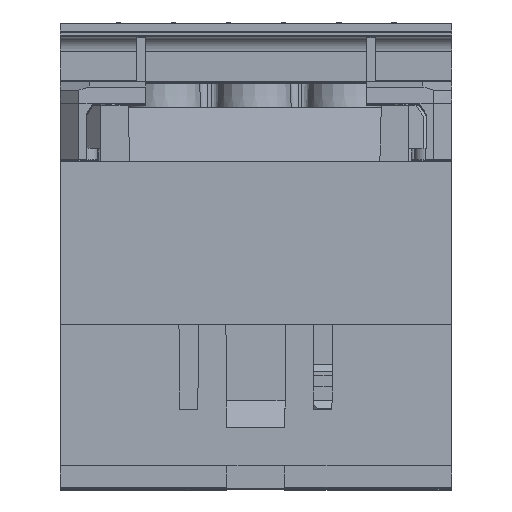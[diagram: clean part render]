
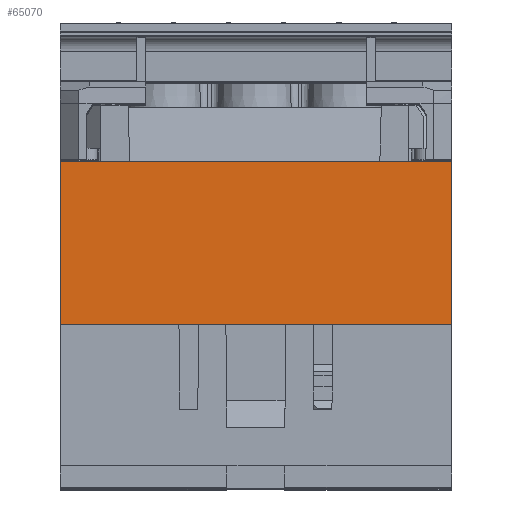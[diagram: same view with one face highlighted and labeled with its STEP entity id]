
A CAD part, top view. The second image highlights one B-rep face of the part: STEP entity #65070.
In plain terms, the highlighted planar face has unit normal (0, 0, 1).
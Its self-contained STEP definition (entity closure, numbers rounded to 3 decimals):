
#4564 = CARTESIAN_POINT ( 'NONE',  ( -27., 18.5, 200.2 ) ) ;
#10208 = CARTESIAN_POINT ( 'NONE',  ( -27., 18.5, 200.2 ) ) ;
#12420 = LINE ( 'NONE', #4564, #65587 ) ;
#13497 = VERTEX_POINT ( 'NONE', #146883 ) ;
#14191 = EDGE_LOOP ( 'NONE', ( #133286, #146209, #63071, #123237 ) ) ;
#15216 = DIRECTION ( 'NONE',  ( 0., 1., 0. ) ) ;
#17755 = CARTESIAN_POINT ( 'NONE',  ( 27., 18.5, 200.2 ) ) ;
#18419 = DIRECTION ( 'NONE',  ( -1., 0., 0. ) ) ;
#23551 = VERTEX_POINT ( 'NONE', #10208 ) ;
#23802 = VERTEX_POINT ( 'NONE', #156436 ) ;
#26886 = CARTESIAN_POINT ( 'NONE',  ( 27., 18.5, 200.2 ) ) ;
#29909 = VERTEX_POINT ( 'NONE', #126954 ) ;
#30195 = EDGE_CURVE ( 'NONE', #13497, #29909, #82126, .T. ) ;
#30902 = CARTESIAN_POINT ( 'NONE',  ( 195.707, 18.5, 200.2 ) ) ;
#36040 = CARTESIAN_POINT ( 'NONE',  ( 195.707, -4., 200.2 ) ) ;
#40282 = LINE ( 'NONE', #26886, #68618 ) ;
#43794 = LINE ( 'NONE', #17755, #144625 ) ;
#63071 = ORIENTED_EDGE ( 'NONE', *, *, #99018, .F. ) ;
#65070 = ADVANCED_FACE ( 'NONE', ( #68739 ), #105772, .T. ) ;
#65587 = VECTOR ( 'NONE', #15216, 1000. ) ;
#68618 = VECTOR ( 'NONE', #18419, 1000. ) ;
#68739 = FACE_OUTER_BOUND ( 'NONE', #14191, .T. ) ;
#74486 = VECTOR ( 'NONE', #108826, 1000. ) ;
#82126 = LINE ( 'NONE', #36040, #74486 ) ;
#99018 = EDGE_CURVE ( 'NONE', #29909, #23551, #12420, .T. ) ;
#103096 = AXIS2_PLACEMENT_3D ( 'NONE', #30902, #140365, #115885 ) ;
#105772 = PLANE ( 'NONE',  #103096 ) ;
#108826 = DIRECTION ( 'NONE',  ( -1., 0., 0. ) ) ;
#109595 = EDGE_CURVE ( 'NONE', #23802, #13497, #43794, .T. ) ;
#115885 = DIRECTION ( 'NONE',  ( 1., 0., 0. ) ) ;
#123237 = ORIENTED_EDGE ( 'NONE', *, *, #30195, .F. ) ;
#126954 = CARTESIAN_POINT ( 'NONE',  ( -27., -4., 200.2 ) ) ;
#131604 = EDGE_CURVE ( 'NONE', #23802, #23551, #40282, .T. ) ;
#133286 = ORIENTED_EDGE ( 'NONE', *, *, #109595, .F. ) ;
#140365 = DIRECTION ( 'NONE',  ( 0., 0., 1. ) ) ;
#140463 = DIRECTION ( 'NONE',  ( 0., -1., 0. ) ) ;
#144625 = VECTOR ( 'NONE', #140463, 1000. ) ;
#146209 = ORIENTED_EDGE ( 'NONE', *, *, #131604, .T. ) ;
#146883 = CARTESIAN_POINT ( 'NONE',  ( 27., -4., 200.2 ) ) ;
#156436 = CARTESIAN_POINT ( 'NONE',  ( 27., 18.5, 200.2 ) ) ;
